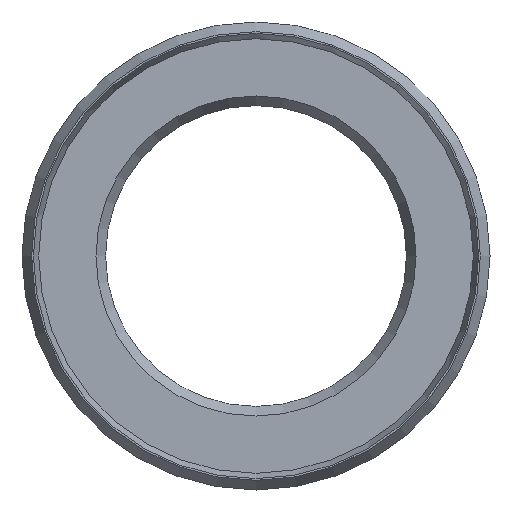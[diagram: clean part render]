
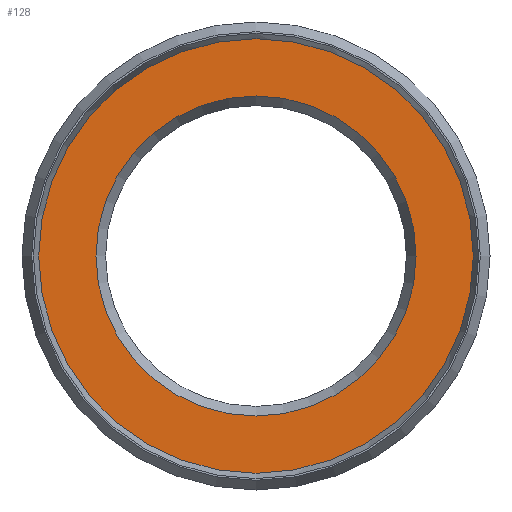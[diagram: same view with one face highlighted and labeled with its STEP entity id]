
A CAD part, left-side view. The second image highlights one B-rep face of the part: STEP entity #128.
In plain terms, the highlighted planar face has unit normal (-1, 0, 0).
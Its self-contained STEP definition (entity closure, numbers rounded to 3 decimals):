
#112=PLANE('',#329);
#128=ADVANCED_FACE('',(#163,#164),#112,.T.);
#163=FACE_BOUND('',#199,.T.);
#164=FACE_BOUND('',#200,.T.);
#199=EDGE_LOOP('',(#235));
#200=EDGE_LOOP('',(#236));
#235=ORIENTED_EDGE('',*,*,#276,.T.);
#236=ORIENTED_EDGE('',*,*,#275,.F.);
#257=VERTEX_POINT('',#454);
#258=VERTEX_POINT('',#457);
#275=EDGE_CURVE('',#257,#257,#293,.T.);
#276=EDGE_CURVE('',#258,#258,#294,.T.);
#293=CIRCLE('',#326,13.);
#294=CIRCLE('',#328,9.577);
#326=AXIS2_PLACEMENT_3D('',#453,#394,#395);
#328=AXIS2_PLACEMENT_3D('',#456,#398,#399);
#329=AXIS2_PLACEMENT_3D('',#458,#400,#401);
#394=DIRECTION('',(1.,0.,0.));
#395=DIRECTION('',(0.,0.,-1.));
#398=DIRECTION('',(1.,0.,0.));
#399=DIRECTION('',(0.,0.,1.));
#400=DIRECTION('',(-1.,0.,0.));
#401=DIRECTION('',(0.,0.,1.));
#453=CARTESIAN_POINT('',(0.,0.,0.));
#454=CARTESIAN_POINT('',(0.,0.,-13.));
#456=CARTESIAN_POINT('',(0.,0.,0.));
#457=CARTESIAN_POINT('',(0.,0.,9.577));
#458=CARTESIAN_POINT('',(0.,13.,0.));
